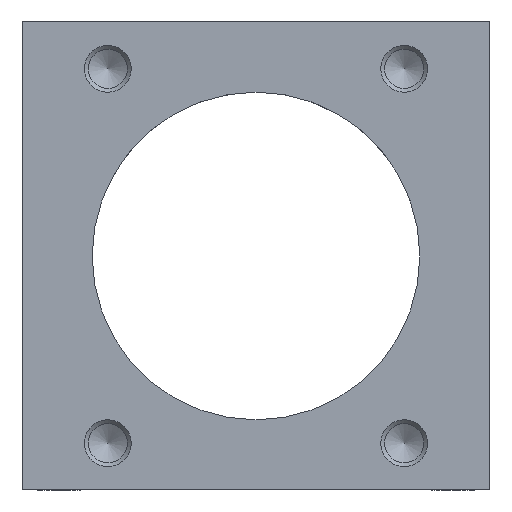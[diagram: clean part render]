
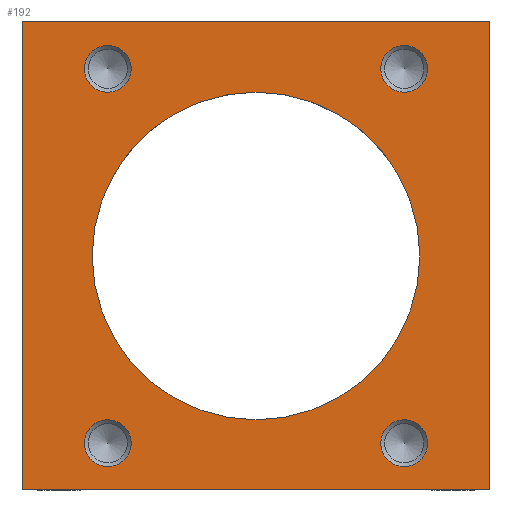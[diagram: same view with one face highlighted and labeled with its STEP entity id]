
A CAD part, front view. The second image highlights one B-rep face of the part: STEP entity #192.
In plain terms, the highlighted planar face has unit normal (0, -1, 0).
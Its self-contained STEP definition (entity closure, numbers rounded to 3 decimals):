
#167=LINE('',#1836,#179);
#168=LINE('',#1839,#180);
#169=LINE('',#1841,#181);
#170=LINE('',#1843,#182);
#179=VECTOR('',#1474,1.);
#180=VECTOR('',#1475,1.);
#181=VECTOR('',#1476,1.);
#182=VECTOR('',#1477,1.);
#192=ADVANCED_FACE('',(#291,#292,#293,#294,#295,#296),#282,.F.);
#282=PLANE('',#1289);
#291=FACE_BOUND('',#521,.T.);
#292=FACE_BOUND('',#522,.T.);
#293=FACE_BOUND('',#523,.T.);
#294=FACE_BOUND('',#524,.T.);
#295=FACE_BOUND('',#525,.T.);
#296=FACE_BOUND('',#526,.T.);
#521=EDGE_LOOP('',(#727));
#522=EDGE_LOOP('',(#728));
#523=EDGE_LOOP('',(#729));
#524=EDGE_LOOP('',(#730));
#525=EDGE_LOOP('',(#731));
#526=EDGE_LOOP('',(#732,#733,#734,#735));
#727=ORIENTED_EDGE('',*,*,#1085,.T.);
#728=ORIENTED_EDGE('',*,*,#1086,.T.);
#729=ORIENTED_EDGE('',*,*,#1087,.T.);
#730=ORIENTED_EDGE('',*,*,#1088,.T.);
#731=ORIENTED_EDGE('',*,*,#1089,.T.);
#732=ORIENTED_EDGE('',*,*,#1090,.T.);
#733=ORIENTED_EDGE('',*,*,#1091,.F.);
#734=ORIENTED_EDGE('',*,*,#1092,.F.);
#735=ORIENTED_EDGE('',*,*,#1093,.T.);
#951=VERTEX_POINT('',#1827);
#952=VERTEX_POINT('',#1829);
#953=VERTEX_POINT('',#1831);
#954=VERTEX_POINT('',#1833);
#955=VERTEX_POINT('',#1835);
#956=VERTEX_POINT('',#1837);
#957=VERTEX_POINT('',#1838);
#958=VERTEX_POINT('',#1840);
#959=VERTEX_POINT('',#1842);
#1085=EDGE_CURVE('',#951,#951,#1197,.T.);
#1086=EDGE_CURVE('',#952,#952,#1198,.T.);
#1087=EDGE_CURVE('',#953,#953,#1199,.T.);
#1088=EDGE_CURVE('',#954,#954,#1200,.T.);
#1089=EDGE_CURVE('',#955,#955,#1201,.T.);
#1090=EDGE_CURVE('',#956,#957,#167,.T.);
#1091=EDGE_CURVE('',#958,#957,#168,.T.);
#1092=EDGE_CURVE('',#959,#958,#169,.T.);
#1093=EDGE_CURVE('',#959,#956,#170,.T.);
#1197=CIRCLE('',#1284,3.);
#1198=CIRCLE('',#1285,3.);
#1199=CIRCLE('',#1286,3.);
#1200=CIRCLE('',#1287,3.);
#1201=CIRCLE('',#1288,21.);
#1284=AXIS2_PLACEMENT_3D('',#1826,#1464,#1465);
#1285=AXIS2_PLACEMENT_3D('',#1828,#1466,#1467);
#1286=AXIS2_PLACEMENT_3D('',#1830,#1468,#1469);
#1287=AXIS2_PLACEMENT_3D('',#1832,#1470,#1471);
#1288=AXIS2_PLACEMENT_3D('',#1834,#1472,#1473);
#1289=AXIS2_PLACEMENT_3D('',#1844,#1478,#1479);
#1464=DIRECTION('',(0.,1.,0.));
#1465=DIRECTION('',(0.,0.,1.));
#1466=DIRECTION('',(0.,1.,0.));
#1467=DIRECTION('',(0.,0.,1.));
#1468=DIRECTION('',(0.,1.,0.));
#1469=DIRECTION('',(0.,0.,1.));
#1470=DIRECTION('',(0.,1.,0.));
#1471=DIRECTION('',(0.,0.,1.));
#1472=DIRECTION('',(0.,1.,0.));
#1473=DIRECTION('',(0.,0.,1.));
#1474=DIRECTION('',(1.,0.,0.));
#1475=DIRECTION('',(0.,0.,-1.));
#1476=DIRECTION('',(1.,0.,0.));
#1477=DIRECTION('',(0.,0.,-1.));
#1478=DIRECTION('',(0.,1.,0.));
#1479=DIRECTION('',(0.,0.,1.));
#1826=CARTESIAN_POINT('',(-19.,-368.,54.));
#1827=CARTESIAN_POINT('',(-19.,-368.,57.));
#1828=CARTESIAN_POINT('',(-19.,-368.,6.));
#1829=CARTESIAN_POINT('',(-19.,-368.,9.));
#1830=CARTESIAN_POINT('',(19.,-368.,6.));
#1831=CARTESIAN_POINT('',(19.,-368.,9.));
#1832=CARTESIAN_POINT('',(19.,-368.,54.));
#1833=CARTESIAN_POINT('',(19.,-368.,57.));
#1834=CARTESIAN_POINT('',(0.,-368.,30.));
#1835=CARTESIAN_POINT('',(0.,-368.,51.));
#1836=CARTESIAN_POINT('',(-30.,-368.,0.));
#1837=CARTESIAN_POINT('',(-30.,-368.,0.));
#1838=CARTESIAN_POINT('',(30.,-368.,0.));
#1839=CARTESIAN_POINT('',(30.,-368.,60.));
#1840=CARTESIAN_POINT('',(30.,-368.,60.));
#1841=CARTESIAN_POINT('',(-30.,-368.,60.));
#1842=CARTESIAN_POINT('',(-30.,-368.,60.));
#1843=CARTESIAN_POINT('',(-30.,-368.,60.));
#1844=CARTESIAN_POINT('',(-30.,-368.,60.));
